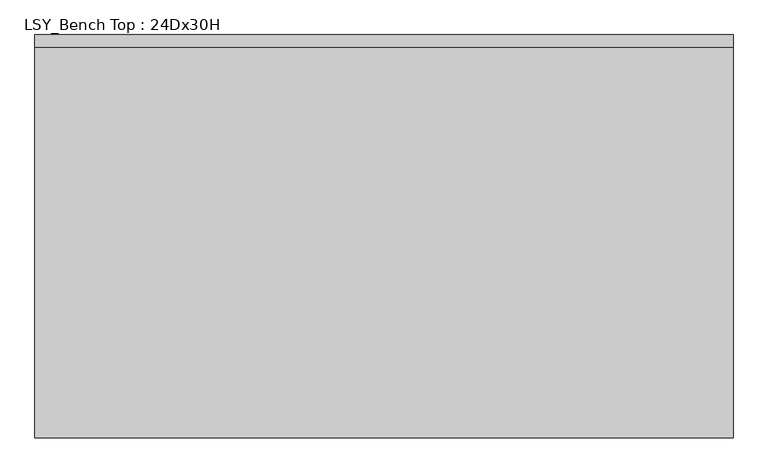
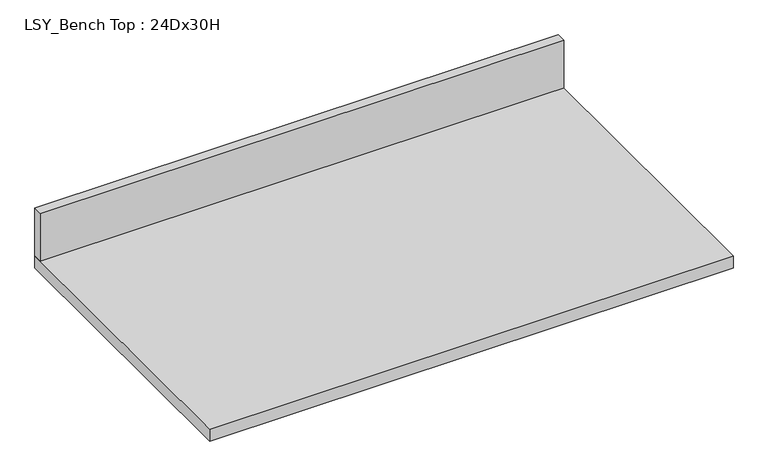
"""IFC4 building model written with IfcOpenShell, lengths in millimetres: furniture geometry, LSY_Bench Top : 24Dx30H."""

import ifcopenshell
import ifcopenshell.guid

model = None  # the IFC model being written
_history = None  # IfcOwnerHistory: only IFC2X3 demands one
_inside = {}  # id of a spatial element -> (the spatial element, [elements in it])
_under = {}  # id of a project, library or spatial element -> (it, [spatial elements below it])
_declared = {}  # id of a project -> (the project, [libraries it declares])
_typed = {}  # id of a type object -> (the type object, [elements of that type])
_made_of = {}  # id of a material, layer set ... -> (it, [elements and type objects made of it])


def new_model(schema):
    """Start an empty IFC model of exactly this schema.

    Asked for "IFC4X3", IfcOpenShell would pick the latest addendum, in which some entities
    have other attributes; the version numbers below select the first issue.
    IFC2X3 requires an IfcOwnerHistory on every rooted entity: one is made here for all.
    """
    global model, _history
    if schema == "IFC4X3":
        model = ifcopenshell.file(schema_version=(4, 3, 0, 0))
    else:
        model = ifcopenshell.file(schema=schema)
    _inside.clear()
    _under.clear()
    _declared.clear()
    _typed.clear()
    _made_of.clear()
    _history = None
    if model.schema == "IFC2X3":
        org = make("IfcOrganization", Name="unknown")
        user = make(
            "IfcPersonAndOrganization",
            ThePerson=make("IfcPerson", FamilyName="unknown"),
            TheOrganization=org,
        )
        app = make(
            "IfcApplication",
            ApplicationDeveloper=org,
            Version="unknown",
            ApplicationFullName="unknown",
            ApplicationIdentifier="unknown",
        )
        _history = make(
            "IfcOwnerHistory",
            OwningUser=user,
            OwningApplication=app,
            ChangeAction="ADDED",
            CreationDate=0,
        )
    return model


def make(cls, **values):
    """One entity of the class cls with the attributes given. An attribute that is None is left unset."""
    return model.create_entity(
        cls, **{name: value for name, value in values.items() if value is not None}
    )


def rooted(cls, **values):
    """An entity with a GlobalId (a new one), such as an element, a storey or a relation."""
    return make(cls, GlobalId=ifcopenshell.guid.new(), OwnerHistory=_history, **values)


def si_unit(unit_type, name, prefix=None):
    """IfcSIUnit, for example si_unit("LENGTHUNIT", "METRE", prefix="MILLI")."""
    return make("IfcSIUnit", UnitType=unit_type, Prefix=prefix, Name=name)


def assignment(units):
    """IfcUnitAssignment: the units of a project."""
    return None if units is None else make("IfcUnitAssignment", Units=units)


def point(xyz):
    """IfcCartesianPoint."""
    return None if xyz is None else make("IfcCartesianPoint", Coordinates=xyz)


def direction(xyz):
    """IfcDirection."""
    return None if xyz is None else make("IfcDirection", DirectionRatios=xyz)


def frame(location, z_axis=None, x_axis=None):
    """IfcAxis2Placement3D, a coordinate frame: its origin and axes. An axis left out is left unset."""
    return make(
        "IfcAxis2Placement3D",
        Location=point(location),
        Axis=direction(z_axis),
        RefDirection=direction(x_axis),
    )


def origin():
    """The frame at (0, 0, 0) with its axes left unset."""
    return frame((0.0, 0.0, 0.0))


def place(relative_to, where):
    """IfcLocalPlacement: puts the frame where relative to a parent placement (None: the world)."""
    return make(
        "IfcLocalPlacement", PlacementRelTo=relative_to, RelativePlacement=where
    )


def context(
    kind, dimensions, precision=None, world=None, true_north=None, identifier=None
):
    """IfcGeometricRepresentationContext, for example the 3D "Model" context."""
    return make(
        "IfcGeometricRepresentationContext",
        ContextIdentifier=identifier,
        ContextType=kind,
        CoordinateSpaceDimension=dimensions,
        Precision=precision,
        WorldCoordinateSystem=world,
        TrueNorth=true_north,
    )


def project(units=None, contexts=None):
    """IfcProject with its units and contexts."""
    return rooted(
        "IfcProject",
        Name="project",
        RepresentationContexts=contexts,
        UnitsInContext=assignment(units),
    )


def spatial(cls, under=None, at=None, **own):
    """A site, building, storey or space (cls), placed at a placement, below another one or the project."""
    s = rooted(cls, ObjectPlacement=at, **own)
    if under is not None:
        _under.setdefault(under.id(), (under, []))[1].append(s)
    return s


def polyline(points):
    """IfcPolyline through the points."""
    return make("IfcPolyline", Points=[point(p) for p in points])


def outline(outer, holes=None, kind="AREA"):
    """IfcArbitraryClosedProfileDef: a profile drawn as a closed curve; with holes, ...WithVoids."""
    if holes is None:
        return make("IfcArbitraryClosedProfileDef", ProfileType=kind, OuterCurve=outer)
    return make(
        "IfcArbitraryProfileDefWithVoids",
        ProfileType=kind,
        OuterCurve=outer,
        InnerCurves=holes,
    )


def extrude(swept, where, along, depth):
    """IfcExtrudedAreaSolid: the profile swept, set in the frame where, extruded along a direction by depth."""
    return make(
        "IfcExtrudedAreaSolid",
        SweptArea=swept,
        Position=where,
        ExtrudedDirection=direction(along),
        Depth=depth,
    )


def shape(context_of_items, identifier, shape_type, items):
    """IfcShapeRepresentation: the items that make up one representation, for example the "Body"."""
    return make(
        "IfcShapeRepresentation",
        ContextOfItems=context_of_items,
        RepresentationIdentifier=identifier,
        RepresentationType=shape_type,
        Items=items,
    )


def source(mapping_origin, context_of_items, identifier, shape_type, items):
    """IfcRepresentationMap: a shape defined once, which mapped items show again and again."""
    return make(
        "IfcRepresentationMap",
        MappingOrigin=mapping_origin,
        MappedRepresentation=shape(context_of_items, identifier, shape_type, items),
    )


def transform(
    local_origin,
    x_axis=None,
    y_axis=None,
    z_axis=None,
    scale=None,
    scale2=None,
    scale3=None,
    uniform=True,
):
    """IfcCartesianTransformationOperator3D, or its non-uniform kind. x_axis, y_axis, z_axis: its Axis1, 2, 3."""
    if uniform:
        return make(
            "IfcCartesianTransformationOperator3D",
            Axis1=direction(x_axis),
            Axis2=direction(y_axis),
            LocalOrigin=point(local_origin),
            Scale=scale,
            Axis3=direction(z_axis),
        )
    return make(
        "IfcCartesianTransformationOperator3DnonUniform",
        Axis1=direction(x_axis),
        Axis2=direction(y_axis),
        LocalOrigin=point(local_origin),
        Scale=scale,
        Axis3=direction(z_axis),
        Scale2=scale2,
        Scale3=scale3,
    )


def mapped(mapping_source, mapping_target):
    """IfcMappedItem: shows the shape of a source again, moved by a transform."""
    return make(
        "IfcMappedItem", MappingSource=mapping_source, MappingTarget=mapping_target
    )


def made_of(thing, what):
    """Note that an element or type object is made of a material, layer set ...; save() writes the relation."""
    if what is not None:
        _made_of.setdefault(what.id(), (what, []))[1].append(thing)
    return thing


def element(
    cls,
    number,
    at=None,
    inside=None,
    cuts=None,
    type_object=None,
    material=None,
    context=None,
    identifier="Body",
    shape_type=None,
    held_by="IfcProductDefinitionShape",
    body=None,
    shapes=None,
    **own,
):
    """One element of the class cls, such as IfcWall. Its Tag is "e" and its number.

    at: its placement. inside: the storey or other place that contains it. cuts: it is an
    opening in that element (IfcRelVoidsElement). A single representation is given by context,
    identifier, shape_type and body (its items); several are given by shapes. held_by: the class
    of the entity that holds the representations. save() writes the other relations.
    """
    e = rooted(cls, Tag="e%d" % number, ObjectPlacement=at, **own)
    if body is not None:
        shapes = [shape(context, identifier, shape_type, body)]
    if shapes is not None:
        e.Representation = make(held_by, Representations=shapes)
    if inside is not None:
        _inside.setdefault(inside.id(), (inside, []))[1].append(e)
    if cuts is not None:
        rooted(
            "IfcRelVoidsElement", RelatingBuildingElement=cuts, RelatedOpeningElement=e
        )
    if type_object is not None:
        _typed.setdefault(type_object.id(), (type_object, []))[1].append(e)
    return made_of(e, material)


def aggregate(whole, parts):
    """IfcRelAggregates: a whole, such as a stair, and the parts it consists of."""
    return rooted("IfcRelAggregates", RelatingObject=whole, RelatedObjects=parts)


def save(model, path):
    """Write the relations noted so far, then the file.

    IfcRelAggregates (storeys below a building ...), IfcRelContainedInSpatialStructure (elements
    in a storey), IfcRelDefinesByType, IfcRelAssociatesMaterial and IfcRelDeclares: one each for
    every whole, place, type object, material and project.
    """
    for whole, parts in _under.values():
        aggregate(whole, parts)
    for where, things in _inside.values():
        rooted(
            "IfcRelContainedInSpatialStructure",
            RelatedElements=things,
            RelatingStructure=where,
        )
    for kind, things in _typed.values():
        rooted("IfcRelDefinesByType", RelatedObjects=things, RelatingType=kind)
    for what, things in _made_of.values():
        rooted("IfcRelAssociatesMaterial", RelatedObjects=things, RelatingMaterial=what)
    for by, libraries in _declared.values():
        rooted("IfcRelDeclares", RelatingContext=by, RelatedDefinitions=libraries)
    model.write(path)


def lsy_bench_top_24dx30h_35ee3d5e(model_context):
    return source(origin(), model_context, "Body", "SweptSolid", [
        extrude(outline(polyline([(-144.9747946, -615.0), (-144.9747946, -1224.6), (-1200.4622951, -1224.6), (-1200.4622951, -615.0), (-144.9747946, -615.0)])), frame((0.0, 0.0, 736.6), z_axis=(0.0, 0.0, 1.0), x_axis=(1.0, 0.0, 0.0)), (0.0, 0.0, 1.0), 25.4),
        extrude(outline(polyline([(-144.9747946, -615.0), (-144.9747946, -634.0), (-1200.4622951, -634.0), (-1200.4622951, -615.0), (-144.9747946, -615.0)])), frame((0.0, 0.0, 762.0), z_axis=(0.0, 0.0, 1.0), x_axis=(1.0, 0.0, 0.0)), (0.0, 0.0, 1.0), 102.0),
    ])


if __name__ == "__main__":
    model = new_model("IFC4")
    model_context = context("Model", 3, world=origin())
    ifc_project = project(units=[si_unit("LENGTHUNIT", "METRE", prefix="MILLI")], contexts=[model_context])
    site = spatial("IfcSite", under=ifc_project)
    building = spatial("IfcBuilding", under=site)
    placement = place(None, origin())
    lsy_bench_top_24dx30h_shape = lsy_bench_top_24dx30h_35ee3d5e(model_context)
    element("IfcFurniture", 1, ObjectType="LSY_Bench Top : 24Dx30H", at=placement, inside=building, context=model_context, shape_type="MappedRepresentation", body=[
        mapped(lsy_bench_top_24dx30h_shape, transform((0.0, 0.0, 0.0), x_axis=(1.0, 0.0, 0.0), y_axis=(0.0, 1.0, 0.0), z_axis=(0.0, 0.0, 1.0))),
    ])
    save(model, "model.ifc")
